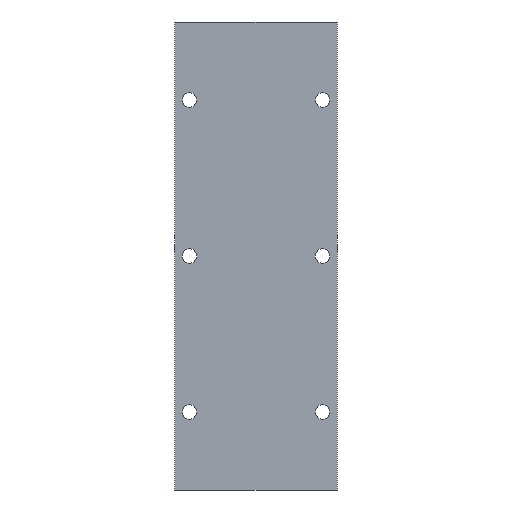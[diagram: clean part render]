
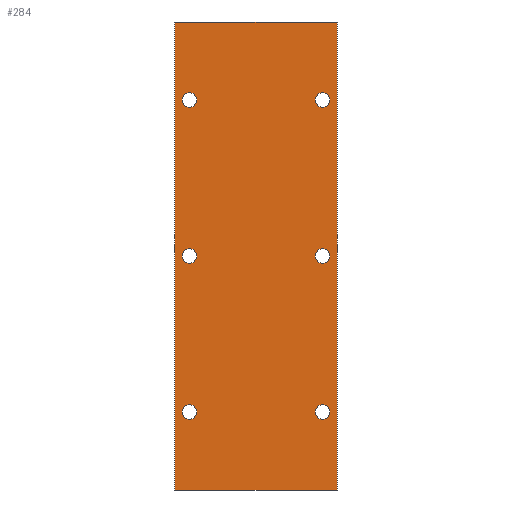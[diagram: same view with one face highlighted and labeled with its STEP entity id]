
A CAD part, front view. The second image highlights one B-rep face of the part: STEP entity #284.
In plain terms, the highlighted planar face has unit normal (0, -1, 0).
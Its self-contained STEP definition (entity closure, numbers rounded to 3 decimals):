
#7 = EDGE_CURVE ( 'NONE', #594, #355, #596, .T. ) ;
#13 = CARTESIAN_POINT ( 'NONE',  ( -25., -3., 192. ) ) ;
#16 = CARTESIAN_POINT ( 'NONE',  ( 20.5, -3., 24. ) ) ;
#24 = CARTESIAN_POINT ( 'NONE',  ( -20.5, -3., 120. ) ) ;
#25 = FACE_BOUND ( 'NONE', #168, .T. ) ;
#29 = CARTESIAN_POINT ( 'NONE',  ( 25., -3., 144. ) ) ;
#33 = VERTEX_POINT ( 'NONE', #718 ) ;
#38 = CARTESIAN_POINT ( 'NONE',  ( -20.5, -3., 72. ) ) ;
#44 = CARTESIAN_POINT ( 'NONE',  ( -20.5, -3., 24. ) ) ;
#48 = EDGE_CURVE ( 'NONE', #259, #702, #188, .T. ) ;
#52 = EDGE_CURVE ( 'NONE', #389, #712, #485, .T. ) ;
#59 = CARTESIAN_POINT ( 'NONE',  ( 20.5, -3., 120. ) ) ;
#76 = DIRECTION ( 'NONE',  ( 0., 1., 0. ) ) ;
#77 = AXIS2_PLACEMENT_3D ( 'NONE', #491, #87, #263 ) ;
#78 = EDGE_LOOP ( 'NONE', ( #522, #440 ) ) ;
#83 = ORIENTED_EDGE ( 'NONE', *, *, #560, .T. ) ;
#87 = DIRECTION ( 'NONE',  ( 0., 1., 0. ) ) ;
#93 = CARTESIAN_POINT ( 'NONE',  ( 25., -3., 0. ) ) ;
#101 = DIRECTION ( 'NONE',  ( 0., 0., -1. ) ) ;
#103 = AXIS2_PLACEMENT_3D ( 'NONE', #59, #653, #309 ) ;
#114 = EDGE_CURVE ( 'NONE', #33, #707, #362, .T. ) ;
#118 = ORIENTED_EDGE ( 'NONE', *, *, #580, .T. ) ;
#122 = ORIENTED_EDGE ( 'NONE', *, *, #334, .T. ) ;
#137 = FACE_BOUND ( 'NONE', #336, .T. ) ;
#146 = AXIS2_PLACEMENT_3D ( 'NONE', #221, #691, #552 ) ;
#162 = AXIS2_PLACEMENT_3D ( 'NONE', #436, #76, #318 ) ;
#168 = EDGE_LOOP ( 'NONE', ( #617, #181 ) ) ;
#171 = VECTOR ( 'NONE', #493, 1000. ) ;
#181 = ORIENTED_EDGE ( 'NONE', *, *, #683, .T. ) ;
#188 = CIRCLE ( 'NONE', #261, 2.25 ) ;
#193 = CARTESIAN_POINT ( 'NONE',  ( -20.5, -3., 69.75 ) ) ;
#198 = DIRECTION ( 'NONE',  ( 1., 0., 0. ) ) ;
#204 = CARTESIAN_POINT ( 'NONE',  ( 20.5, -3., 21.75 ) ) ;
#215 = DIRECTION ( 'NONE',  ( 0., 0., 1. ) ) ;
#216 = VECTOR ( 'NONE', #198, 1000. ) ;
#221 = CARTESIAN_POINT ( 'NONE',  ( 20.5, -3., 72. ) ) ;
#224 = ORIENTED_EDGE ( 'NONE', *, *, #52, .T. ) ;
#229 = VERTEX_POINT ( 'NONE', #663 ) ;
#232 = DIRECTION ( 'NONE',  ( 0., 0., 1. ) ) ;
#236 = VERTEX_POINT ( 'NONE', #545 ) ;
#237 = AXIS2_PLACEMENT_3D ( 'NONE', #38, #637, #749 ) ;
#238 = VECTOR ( 'NONE', #101, 1000. ) ;
#239 = DIRECTION ( 'NONE',  ( 0., 1., 0. ) ) ;
#250 = ORIENTED_EDGE ( 'NONE', *, *, #525, .T. ) ;
#252 = AXIS2_PLACEMENT_3D ( 'NONE', #751, #339, #623 ) ;
#256 = ORIENTED_EDGE ( 'NONE', *, *, #290, .T. ) ;
#259 = VERTEX_POINT ( 'NONE', #193 ) ;
#260 = DIRECTION ( 'NONE',  ( 0., 0., 1. ) ) ;
#261 = AXIS2_PLACEMENT_3D ( 'NONE', #532, #239, #302 ) ;
#263 = DIRECTION ( 'NONE',  ( 0., 0., 1. ) ) ;
#284 = ADVANCED_FACE ( 'NONE', ( #778, #25, #530, #137, #350, #437, #330 ), #433, .F. ) ;
#285 = ORIENTED_EDGE ( 'NONE', *, *, #7, .T. ) ;
#286 = VERTEX_POINT ( 'NONE', #724 ) ;
#290 = EDGE_CURVE ( 'NONE', #712, #423, #313, .T. ) ;
#292 = CIRCLE ( 'NONE', #77, 2.25 ) ;
#302 = DIRECTION ( 'NONE',  ( 0., 0., 1. ) ) ;
#309 = DIRECTION ( 'NONE',  ( 0., 0., 1. ) ) ;
#310 = ORIENTED_EDGE ( 'NONE', *, *, #48, .T. ) ;
#313 = LINE ( 'NONE', #13, #171 ) ;
#315 = ORIENTED_EDGE ( 'NONE', *, *, #711, .F. ) ;
#318 = DIRECTION ( 'NONE',  ( -1., 0., 0. ) ) ;
#321 = AXIS2_PLACEMENT_3D ( 'NONE', #24, #380, #260 ) ;
#330 = FACE_OUTER_BOUND ( 'NONE', #470, .T. ) ;
#334 = EDGE_CURVE ( 'NONE', #533, #770, #407, .T. ) ;
#336 = EDGE_LOOP ( 'NONE', ( #122, #250 ) ) ;
#339 = DIRECTION ( 'NONE',  ( 0., 1., 0. ) ) ;
#343 = CARTESIAN_POINT ( 'NONE',  ( 20.5, -3., 74.25 ) ) ;
#347 = AXIS2_PLACEMENT_3D ( 'NONE', #411, #582, #232 ) ;
#349 = DIRECTION ( 'NONE',  ( 0., 1., 0. ) ) ;
#350 = FACE_BOUND ( 'NONE', #78, .T. ) ;
#355 = VERTEX_POINT ( 'NONE', #554 ) ;
#362 = CIRCLE ( 'NONE', #103, 2.25 ) ;
#376 = AXIS2_PLACEMENT_3D ( 'NONE', #44, #505, #215 ) ;
#380 = DIRECTION ( 'NONE',  ( 0., 1., 0. ) ) ;
#389 = VERTEX_POINT ( 'NONE', #29 ) ;
#391 = CARTESIAN_POINT ( 'NONE',  ( -25., -3., 0. ) ) ;
#397 = CARTESIAN_POINT ( 'NONE',  ( 25., -3., 192. ) ) ;
#399 = CARTESIAN_POINT ( 'NONE',  ( -25., -3., 144. ) ) ;
#401 = CARTESIAN_POINT ( 'NONE',  ( -20.5, -3., 74.25 ) ) ;
#402 = VERTEX_POINT ( 'NONE', #618 ) ;
#403 = EDGE_LOOP ( 'NONE', ( #640, #310 ) ) ;
#406 = DIRECTION ( 'NONE',  ( 0., 0., 1. ) ) ;
#407 = CIRCLE ( 'NONE', #713, 2.25 ) ;
#411 = CARTESIAN_POINT ( 'NONE',  ( 20.5, -3., 24. ) ) ;
#416 = LINE ( 'NONE', #397, #238 ) ;
#423 = VERTEX_POINT ( 'NONE', #391 ) ;
#433 = PLANE ( 'NONE',  #162 ) ;
#436 = CARTESIAN_POINT ( 'NONE',  ( 25., -3., 192. ) ) ;
#437 = FACE_BOUND ( 'NONE', #652, .T. ) ;
#440 = ORIENTED_EDGE ( 'NONE', *, *, #658, .T. ) ;
#441 = DIRECTION ( 'NONE',  ( 0., 0., 1. ) ) ;
#444 = EDGE_CURVE ( 'NONE', #423, #555, #521, .T. ) ;
#460 = VECTOR ( 'NONE', #765, 1000. ) ;
#462 = CIRCLE ( 'NONE', #237, 2.25 ) ;
#470 = EDGE_LOOP ( 'NONE', ( #315, #224, #256, #649 ) ) ;
#485 = LINE ( 'NONE', #768, #460 ) ;
#488 = AXIS2_PLACEMENT_3D ( 'NONE', #703, #349, #406 ) ;
#491 = CARTESIAN_POINT ( 'NONE',  ( -20.5, -3., 24. ) ) ;
#493 = DIRECTION ( 'NONE',  ( 0., 0., -1. ) ) ;
#494 = CARTESIAN_POINT ( 'NONE',  ( 20.5, -3., 72. ) ) ;
#505 = DIRECTION ( 'NONE',  ( 0., 1., 0. ) ) ;
#511 = CIRCLE ( 'NONE', #252, 2.25 ) ;
#520 = EDGE_LOOP ( 'NONE', ( #118, #544 ) ) ;
#521 = LINE ( 'NONE', #93, #216 ) ;
#522 = ORIENTED_EDGE ( 'NONE', *, *, #578, .T. ) ;
#525 = EDGE_CURVE ( 'NONE', #770, #533, #721, .T. ) ;
#530 = FACE_BOUND ( 'NONE', #403, .T. ) ;
#532 = CARTESIAN_POINT ( 'NONE',  ( -20.5, -3., 72. ) ) ;
#533 = VERTEX_POINT ( 'NONE', #343 ) ;
#544 = ORIENTED_EDGE ( 'NONE', *, *, #752, .T. ) ;
#545 = CARTESIAN_POINT ( 'NONE',  ( -20.5, -3., 26.25 ) ) ;
#552 = DIRECTION ( 'NONE',  ( 0., 0., 1. ) ) ;
#554 = CARTESIAN_POINT ( 'NONE',  ( 20.5, -3., 26.25 ) ) ;
#555 = VERTEX_POINT ( 'NONE', #731 ) ;
#560 = EDGE_CURVE ( 'NONE', #355, #594, #686, .T. ) ;
#562 = CIRCLE ( 'NONE', #321, 2.25 ) ;
#570 = CARTESIAN_POINT ( 'NONE',  ( 20.5, -3., 117.75 ) ) ;
#578 = EDGE_CURVE ( 'NONE', #236, #286, #292, .T. ) ;
#580 = EDGE_CURVE ( 'NONE', #229, #402, #562, .T. ) ;
#582 = DIRECTION ( 'NONE',  ( 0., 1., 0. ) ) ;
#594 = VERTEX_POINT ( 'NONE', #204 ) ;
#596 = CIRCLE ( 'NONE', #347, 2.25 ) ;
#617 = ORIENTED_EDGE ( 'NONE', *, *, #114, .T. ) ;
#618 = CARTESIAN_POINT ( 'NONE',  ( -20.5, -3., 117.75 ) ) ;
#623 = DIRECTION ( 'NONE',  ( 0., 0., 1. ) ) ;
#637 = DIRECTION ( 'NONE',  ( 0., 1., 0. ) ) ;
#639 = CARTESIAN_POINT ( 'NONE',  ( 20.5, -3., 69.75 ) ) ;
#640 = ORIENTED_EDGE ( 'NONE', *, *, #706, .T. ) ;
#649 = ORIENTED_EDGE ( 'NONE', *, *, #444, .T. ) ;
#652 = EDGE_LOOP ( 'NONE', ( #83, #285 ) ) ;
#653 = DIRECTION ( 'NONE',  ( 0., 1., 0. ) ) ;
#658 = EDGE_CURVE ( 'NONE', #286, #236, #705, .T. ) ;
#663 = CARTESIAN_POINT ( 'NONE',  ( -20.5, -3., 122.25 ) ) ;
#668 = DIRECTION ( 'NONE',  ( 0., 0., 1. ) ) ;
#670 = AXIS2_PLACEMENT_3D ( 'NONE', #16, #678, #668 ) ;
#672 = DIRECTION ( 'NONE',  ( 0., 1., 0. ) ) ;
#678 = DIRECTION ( 'NONE',  ( 0., 1., 0. ) ) ;
#683 = EDGE_CURVE ( 'NONE', #707, #33, #511, .T. ) ;
#686 = CIRCLE ( 'NONE', #670, 2.25 ) ;
#691 = DIRECTION ( 'NONE',  ( 0., 1., 0. ) ) ;
#702 = VERTEX_POINT ( 'NONE', #401 ) ;
#703 = CARTESIAN_POINT ( 'NONE',  ( -20.5, -3., 120. ) ) ;
#705 = CIRCLE ( 'NONE', #376, 2.25 ) ;
#706 = EDGE_CURVE ( 'NONE', #702, #259, #462, .T. ) ;
#707 = VERTEX_POINT ( 'NONE', #570 ) ;
#711 = EDGE_CURVE ( 'NONE', #389, #555, #416, .T. ) ;
#712 = VERTEX_POINT ( 'NONE', #399 ) ;
#713 = AXIS2_PLACEMENT_3D ( 'NONE', #494, #672, #441 ) ;
#718 = CARTESIAN_POINT ( 'NONE',  ( 20.5, -3., 122.25 ) ) ;
#721 = CIRCLE ( 'NONE', #146, 2.25 ) ;
#724 = CARTESIAN_POINT ( 'NONE',  ( -20.5, -3., 21.75 ) ) ;
#731 = CARTESIAN_POINT ( 'NONE',  ( 25., -3., 0. ) ) ;
#749 = DIRECTION ( 'NONE',  ( 0., 0., 1. ) ) ;
#751 = CARTESIAN_POINT ( 'NONE',  ( 20.5, -3., 120. ) ) ;
#752 = EDGE_CURVE ( 'NONE', #402, #229, #757, .T. ) ;
#757 = CIRCLE ( 'NONE', #488, 2.25 ) ;
#765 = DIRECTION ( 'NONE',  ( -1., 0., 0. ) ) ;
#768 = CARTESIAN_POINT ( 'NONE',  ( -60.081, -3., 144. ) ) ;
#770 = VERTEX_POINT ( 'NONE', #639 ) ;
#778 = FACE_BOUND ( 'NONE', #520, .T. ) ;
